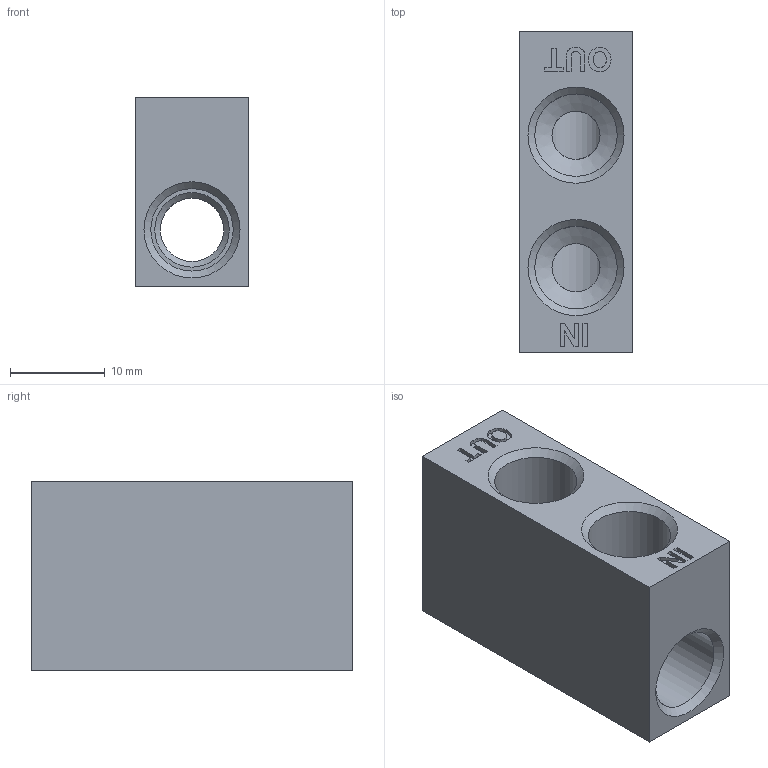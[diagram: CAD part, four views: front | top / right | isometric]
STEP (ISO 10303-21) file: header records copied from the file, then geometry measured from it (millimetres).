
FILE_DESCRIPTION(/* description */ (''),/* implementation_level */ '2;1');
FILE_NAME(/* name */ 'C:/Users/drich/Desktop/cad/Cascades/Jet Cool/Components/Head Only/NPT/JCH-18-NPT v1.step',/* time_stamp */ '2020-01-10T15:28:25-06:00',/* author */ (''),/* organization */ (''),/* preprocessor_version */ 'ST-DEVELOPER v18',/* originating_system */ 'Autodesk Translation Framework v8.12.0.6',/* authorisation */ '');
FILE_SCHEMA (('AUTOMOTIVE_DESIGN { 1 0 10303 214 3 1 1 }'));
Length unit declared in the file: inch
Products named in the file (1): JCH-18-NPT
Bounding box: 11.99 x 33.99 x 19.99 mm (x, y, z)
Volume: 5358.8 mm3; surface area: 3788.8 mm2
Topology: 1 solids, 1 shells, 88 faces, 238 edges, 157 vertices
Faces by surface type: plane 41, bspline 32, cone 8, cylinder 7
Full cylindrical faces by diameter (mm): 5.08 x2, 6.697 x1, 8.707 x4
Entity records: 3165 total; most frequent: CARTESIAN_POINT 1106, ORIENTED_EDGE 476, DIRECTION 305, EDGE_CURVE 238, VERTEX_POINT 157, LINE 145, VECTOR 145, EDGE_LOOP 99
